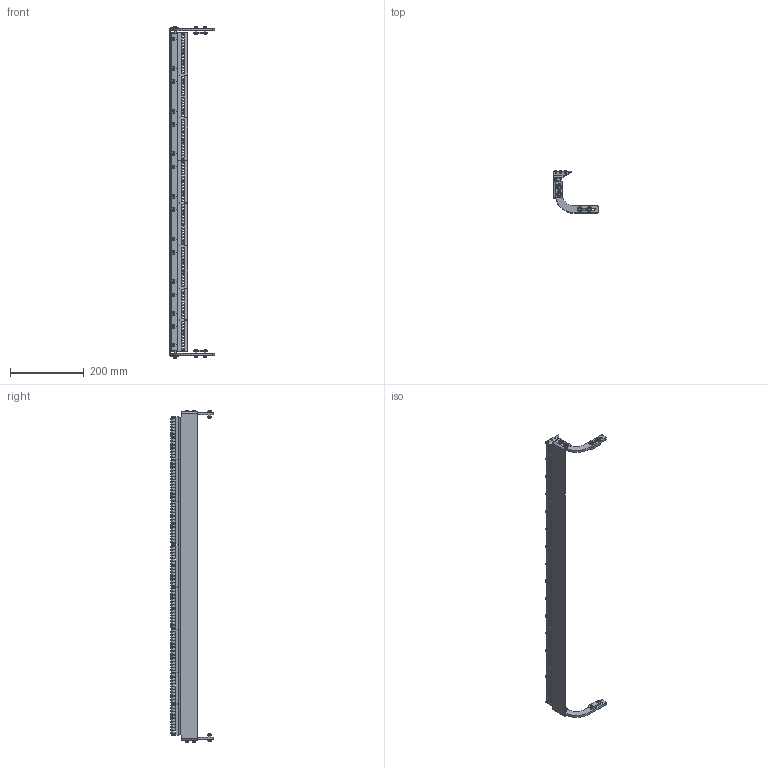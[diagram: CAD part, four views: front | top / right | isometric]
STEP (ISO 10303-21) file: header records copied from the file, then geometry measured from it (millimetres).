
FILE_DESCRIPTION((''),'2;1');
FILE_NAME('518355-34_ASM','2023-03-24T',('jenni.wallner'),(''),'PRO/ENGINEER BY PARAMETRIC TECHNOLOGY CORPORATION, 2012420','PRO/ENGINEER BY PARAMETRIC TECHNOLOGY CORPORATION, 2012420','');
FILE_SCHEMA(('CONFIG_CONTROL_DESIGN'));
Length unit declared in the file: inch
Products named in the file (75): 518353-WW_518353-34; 960616MSSF; 807-1830_34-1-SOLID1; 807-1830_12-1-SOLID1; 807-1830_36-1-SOLID1; 807-1830_31-1-SOLID1; 807-1830_23-1-SOLID1; 807-1830_35-1-SOLID1; 807-1830-1-SOLID1; 807-1830_30-1-SOLID1; 807-1830_24-1-SOLID1; 807-1830_21-1-SOLID1; 807-1830_16-1-SOLID1; 807-1830_4-1-SOLID1; 807-1830_32-1-SOLID1; 807-1830_6-1-SOLID1; 807-1830_33-1-SOLID1; 807-1830_14-1-SOLID1; 807-1830_15-1-SOLID1; 807-1830_19-1-SOLID1; 807-1830_17-1-SOLID1; 807-1830_13-1-SOLID1; 807-1830_7-1-SOLID1; 807-1830_20-1-SOLID1; 807-1830_22-1-SOLID1; 807-1830_1-1-SOLID1; 807-1830_18-1-SOLID1; 807-1830_5-1-SOLID1; 807-1830_28-1-SOLID1; 807-1830_29-1-SOLID1; 807-1830_27-1-SOLID1; 807-1830_2-1-SOLID1; 807-1830_3-1-SOLID1; 807-1830_10-1-SOLID1; 807-1830_9-1-SOLID1; 807-1830_26-1-SOLID1; 807-1830_25-1-SOLID1; 807-1830_11-1-SOLID1; 807-1830_8-1-SOLID1; 807-1830_ASM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
Assembly tree (89 placements, depth 4):
  518355-34_ASM
    ASM0001_ASM
      518353-WW_518353-34
      960616MSSF  x8
      807-1830_ASM  x6
        807-1830_34-1-SOLID1
        807-1830_12-1-SOLID1
        807-1830_36-1-SOLID1
        807-1830_31-1-SOLID1
        807-1830_23-1-SOLID1
        807-1830_35-1-SOLID1
        807-1830-1-SOLID1
        807-1830_30-1-SOLID1
        807-1830_24-1-SOLID1
        807-1830_21-1-SOLID1
        807-1830_16-1-SOLID1
        807-1830_4-1-SOLID1
        807-1830_32-1-SOLID1
        807-1830_6-1-SOLID1
        807-1830_33-1-SOLID1
        807-1830_14-1-SOLID1
        807-1830_15-1-SOLID1
        807-1830_19-1-SOLID1
        807-1830_17-1-SOLID1
        807-1830_13-1-SOLID1
        807-1830_7-1-SOLID1
        807-1830_20-1-SOLID1
        807-1830_22-1-SOLID1
        807-1830_1-1-SOLID1
        807-1830_18-1-SOLID1
        807-1830_5-1-SOLID1
        807-1830_28-1-SOLID1
        807-1830_29-1-SOLID1
        807-1830_27-1-SOLID1
        807-1830_2-1-SOLID1
        807-1830_3-1-SOLID1
        807-1830_10-1-SOLID1
        807-1830_9-1-SOLID1
        807-1830_26-1-SOLID1
        807-1830_25-1-SOLID1
        807-1830_11-1-SOLID1
        807-1830_8-1-SOLID1
      532387  x2
      520309  x2
      807-1829_ASM  x2
        807-1829_20-1-SOLID1
        807-1829_8-1-SOLID1
        CUT-EXTRUDE1_1_
        807-1829_6-1-SOLID1
        807-1829_19-1-SOLID1
        807-1829_3-1-SOLID1
        807-1829-1-SOLID1
        807-1829_11-1-SOLID1
        807-1829_5-1-SOLID1
        807-1829_15-1-SOLID1
        CUT-EXTRUDE1_2_
        CUT-EXTRUDE1_3_
        807-1829_24-1-SOLID1
        807-1829_14-1-SOLID1
        807-1829_9-1-SOLID1
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Bounding box: 122.82 x 114.68 x 902.12 mm (x, y, z)
Volume: 669710.6 mm3; surface area: 408499.8 mm2
Topology: 295 solids, 295 shells, 1932 faces, 3802 edges, 2514 vertices
Faces by surface type: plane 960, cylinder 908, cone 64
Entity records: 17041 total; most frequent: DIRECTION 3280, CARTESIAN_POINT 2733, ORIENTED_EDGE 2274, AXIS2_PLACEMENT_3D 1361, EDGE_CURVE 1137, VERTEX_POINT 753, EDGE_LOOP 632, CIRCLE 573
